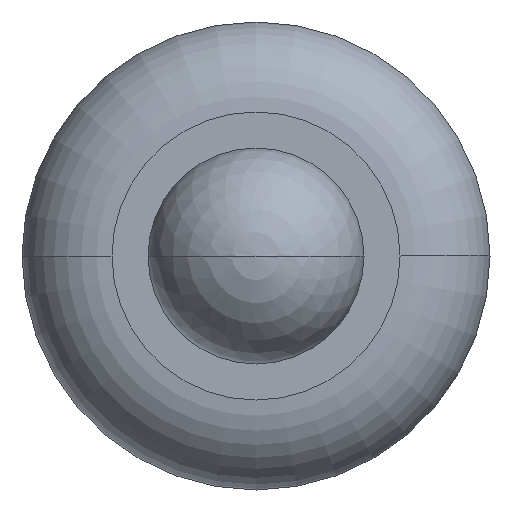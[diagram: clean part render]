
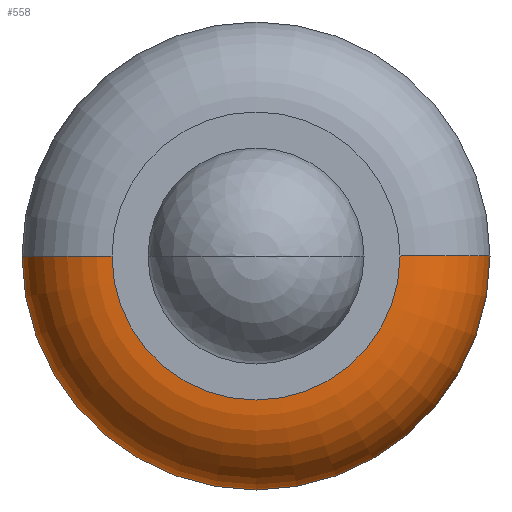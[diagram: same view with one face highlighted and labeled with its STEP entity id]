
A CAD part, front view. The second image highlights one B-rep face of the part: STEP entity #558.
In plain terms, the highlighted toroidal (fillet/blend) face has major radius 0.08 mm and minor radius 0.05 mm.
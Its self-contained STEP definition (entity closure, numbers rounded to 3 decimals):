
#155=CARTESIAN_POINT('',(0.,-3.95,0.));
#156=DIRECTION('',(0.,1.,0.));
#157=DIRECTION('',(1.,0.,0.));
#158=AXIS2_PLACEMENT_3D('',#155,#156,#157);
#165=CARTESIAN_POINT('',(0.08,-3.95,0.));
#166=DIRECTION('',(0.,0.,-1.));
#167=DIRECTION('',(1.,0.,0.));
#168=AXIS2_PLACEMENT_3D('',#165,#166,#167);
#170=CARTESIAN_POINT('',(-0.08,-3.95,0.));
#171=DIRECTION('',(0.,0.,1.));
#172=DIRECTION('',(-1.,0.,0.));
#173=AXIS2_PLACEMENT_3D('',#170,#171,#172);
#208=CARTESIAN_POINT('',(0.,-4.,0.));
#209=DIRECTION('',(0.,1.,0.));
#210=DIRECTION('',(1.,0.,0.));
#211=AXIS2_PLACEMENT_3D('',#208,#209,#210);
#255=CARTESIAN_POINT('',(-0.13,-3.95,0.));
#256=CARTESIAN_POINT('',(0.13,-3.95,0.));
#257=VERTEX_POINT('',#255);
#258=VERTEX_POINT('',#256);
#259=CARTESIAN_POINT('',(-0.08,-4.,0.));
#260=CARTESIAN_POINT('',(0.08,-4.,0.));
#261=VERTEX_POINT('',#259);
#262=VERTEX_POINT('',#260);
#544=CARTESIAN_POINT('',(0.,-3.95,0.));
#545=DIRECTION('',(0.,1.,0.));
#546=DIRECTION('',(0.997,0.,0.071));
#547=AXIS2_PLACEMENT_3D('',#544,#545,#546);
#548=TOROIDAL_SURFACE('',#547,0.08,0.05);
#549=ORIENTED_EDGE('',*,*,#534,.T.);
#551=ORIENTED_EDGE('',*,*,#550,.T.);
#553=ORIENTED_EDGE('',*,*,#552,.F.);
#555=ORIENTED_EDGE('',*,*,#554,.F.);
#556=EDGE_LOOP('',(#549,#551,#553,#555));
#557=FACE_OUTER_BOUND('',#556,.F.);
#159=CIRCLE('',#158,0.13);
#169=CIRCLE('',#168,0.05);
#174=CIRCLE('',#173,0.05);
#212=CIRCLE('',#211,0.08);
#534=EDGE_CURVE('',#258,#257,#159,.T.);
#550=EDGE_CURVE('',#257,#261,#174,.T.);
#552=EDGE_CURVE('',#262,#261,#212,.T.);
#554=EDGE_CURVE('',#258,#262,#169,.T.);
#558=ADVANCED_FACE('',(#557),#548,.T.);
